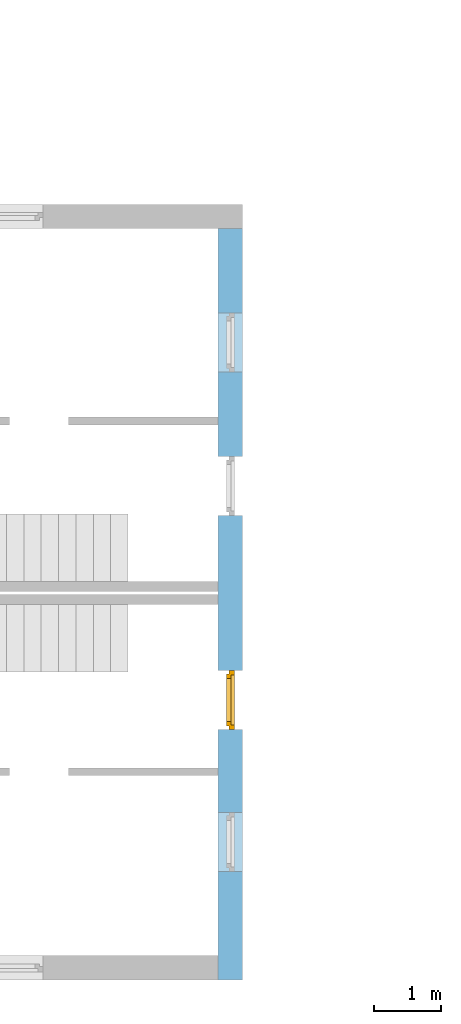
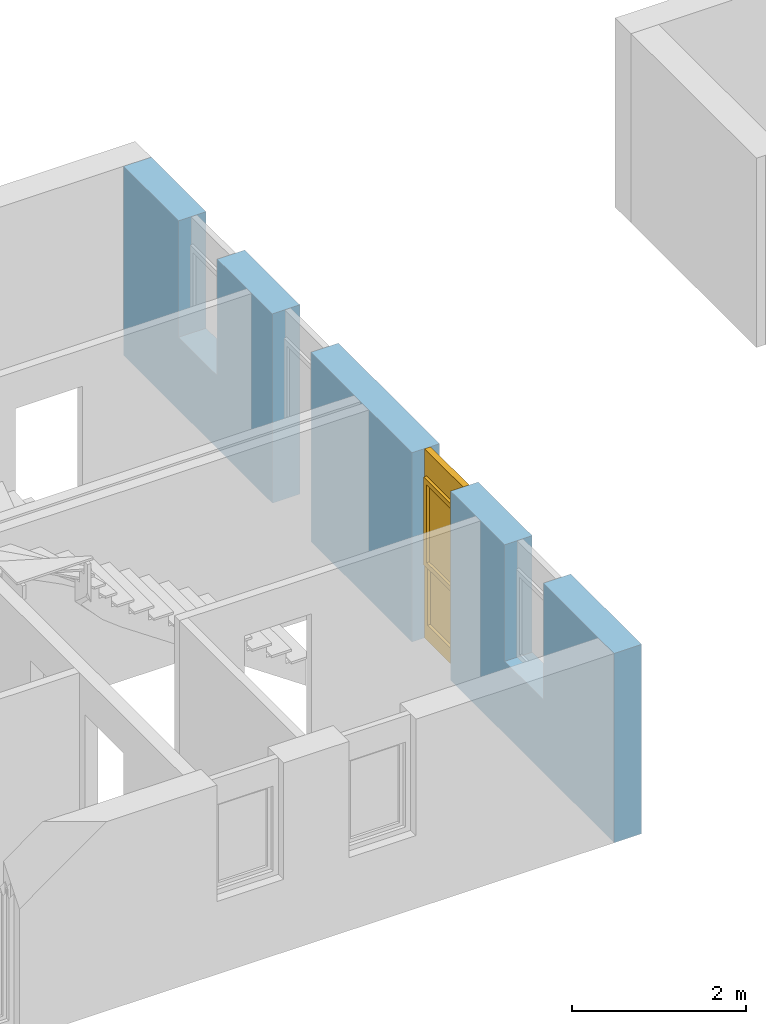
# One storey, part 10 of 42: 1 window, 4 openings, plus 1 element that does not belong to this part.
"""IFC2X3 building model written with IfcOpenShell, lengths in millimetres."""

from ifc_helpers import new_model, entity, si_unit, converted_unit, frame, frame_2d, origin, origin_with_axes, place, context, subcontext, project, spatial, rectangle, extrude, faceted_brep, material, layer, layer_set, layer_usage, type_object, element, fill, save


model = new_model("IFC2X3")

# Units and contexts
model_context = context("Model", 3, precision=1e-05, world=origin())
body_context = subcontext(model_context, "Body", "Model", "MODEL_VIEW")
ifc_project = project(units=[si_unit("LENGTHUNIT", "METRE", prefix="MILLI"), converted_unit("PLANEANGLEUNIT", "DEGREE", entity("IfcPlaneAngleMeasure", 0.0174532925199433), si_unit("PLANEANGLEUNIT", "RADIAN"), dimensions=[0, 0, 0, 0, 0, 0, 0]), si_unit("AREAUNIT", "SQUARE_METRE"), si_unit("VOLUMEUNIT", "CUBIC_METRE")], contexts=[model_context])

# Building, storey
building_placement = place(None, origin())
building = spatial("IfcBuilding", under=ifc_project, at=building_placement, Name="Gebäude", CompositionType="ELEMENT")
storey_placement = place(building_placement, frame((0.0, 0.0, 2730.0), z_axis=(0.0, 0.0, 1.0), x_axis=(1.0, 0.0, 0.0)))
storey = spatial("IfcBuildingStorey", under=building, at=storey_placement, Name="OG.- Grundriss", CompositionType="ELEMENT", Elevation=2730.0)

# Wall, openings, window
ifc_material_1 = material(Name="Poroton")
ifc_layer = layer(ifc_material_1, 365.0000000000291)
ifc_layer_set = layer_set([ifc_layer])
ifc_layer_usage = layer_usage(ifc_layer_set, "AXIS2", "POSITIVE", 0.0)
wall_placement = place(storey_placement, frame((142357.7928067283, 125274.8877321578, 0.0), z_axis=(0.0, 0.0, 1.0), x_axis=(0.0, 1.0, 0.0)))
wall = element("IfcWallStandardCase", 1, at=wall_placement, inside=storey, material=ifc_layer_usage, Name="<Unnamed Element>", context=body_context, shape_type="SweptSolid", body=[
    extrude(rectangle(XDim=11250.00000031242, YDim=365.0000000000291, at=frame_2d((5625.000000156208, 182.5000000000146), x_axis=(1.0, 0.0))), origin_with_axes(), (0.0, 0.0, 1.0), 2650.0),
])
opening_1_placement = place(wall_placement, frame((3750.0, 0.0, 0.0), z_axis=(0.0, 1.0, 0.0), x_axis=(0.0, 0.0, 1.0)))
opening_1 = element("IfcOpeningElement", 2, at=opening_1_placement, cuts=wall, Name="Fensteröffnung", ObjectType="Opening", context=body_context, shape_type="SweptSolid", body=[
    extrude(rectangle(XDim=2650.0, YDim=885.0, at=frame_2d((1325.0, 442.5), x_axis=(1.0, 0.0))), origin_with_axes(), (0.0, 0.0, 1.0), 365.0000000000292),
])
opening_2_placement = place(wall_placement, frame((6955.000000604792, 0.0, 0.0), z_axis=(0.0, 1.0, 0.0), x_axis=(0.0, 0.0, 1.0)))
element("IfcOpeningElement", 3, at=opening_2_placement, cuts=wall, Name="Fensteröffnung", ObjectType="Opening", context=body_context, shape_type="SweptSolid", body=[
    extrude(rectangle(XDim=2650.0, YDim=885.0, at=frame_2d((1325.0, 442.5), x_axis=(1.0, 0.0))), origin_with_axes(), (0.0, 0.0, 1.0), 365.0000000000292),
])
opening_3_placement = place(wall_placement, frame((9105.000000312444, 0.0, 1020.0), z_axis=(0.0, 1.0, 0.0), x_axis=(0.0, 0.0, 1.0)))
element("IfcOpeningElement", 4, at=opening_3_placement, cuts=wall, Name="Fensteröffnung", ObjectType="Opening", context=body_context, shape_type="SweptSolid", body=[
    extrude(rectangle(XDim=1630.0, YDim=885.0, at=frame_2d((815.0, 442.5), x_axis=(1.0, 0.0))), origin_with_axes(), (0.0, 0.0, 1.0), 365.0000000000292),
])
opening_4_placement = place(wall_placement, frame((1625.0, 0.0, 1020.0), z_axis=(0.0, 1.0, 0.0), x_axis=(0.0, 0.0, 1.0)))
element("IfcOpeningElement", 5, at=opening_4_placement, cuts=wall, Name="Fensteröffnung", ObjectType="Opening", context=body_context, shape_type="SweptSolid", body=[
    extrude(rectangle(XDim=1630.0, YDim=885.0, at=frame_2d((815.0, 442.5), x_axis=(1.0, 0.0))), origin_with_axes(), (0.0, 0.0, 1.0), 365.0000000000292),
])
ifc_material_2 = material()
window_style = type_object("IfcWindowStyle", Name="Fenster", ConstructionType="NOTDEFINED", OperationType="USERDEFINED", ParameterTakesPrecedence=False, Sizeable=False)
window_placement = place(opening_1_placement, frame((0.0, 0.0, 0.0), z_axis=(1.0, 0.0, 0.0), x_axis=(0.0, 1.0, 0.0)))
window = element("IfcWindow", 6, at=window_placement, inside=storey, type_object=window_style, material=ifc_material_2, Name="Fenster", OverallHeight=2650.0, OverallWidth=885.0, context=body_context, shape_type="Brep", body=[
    faceted_brep([(885.0, 200.0000000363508, 2650.0), (815.0, 200.0000000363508, 2650.0), (815.0, 200.0000000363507, -2.449293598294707e-15), (885.0, 200.0000000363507, -2.449293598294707e-15), (885.0, 120.0000000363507, 2.449293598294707e-15), (815.0, 120.0000000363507, 2.449293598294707e-15), (815.0, 120.0000000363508, 2650.0), (885.0, 120.0000000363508, 2650.0), (885.0, 200.0000000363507, -2.449293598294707e-15), (885.0, 120.0000000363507, 2.449293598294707e-15), (885.0, 120.0000000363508, 2650.0), (885.0, 200.0000000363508, 2650.0), (815.0, 200.0000000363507, -2.449293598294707e-15), (815.0, 120.0000000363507, 2.449293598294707e-15), (885.0, 120.0000000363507, 2.449293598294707e-15), (885.0, 200.0000000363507, -2.449293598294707e-15), (815.0, 200.0000000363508, 2650.0), (815.0, 120.0000000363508, 2650.0), (815.0, 120.0000000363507, 2.449293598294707e-15), (815.0, 200.0000000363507, -2.449293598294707e-15), (885.0, 200.0000000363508, 2650.0), (885.0, 120.0000000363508, 2650.0), (815.0, 120.0000000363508, 2650.0), (815.0, 200.0000000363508, 2650.0)], [[[0, 1, 2, 3]], [[4, 5, 6, 7]], [[8, 9, 10, 11]], [[12, 13, 14, 15]], [[16, 17, 18, 19]], [[20, 21, 22, 23]]], orient=[[False], [False], [False], [False], [False], [False]]),
    faceted_brep([(69.99999998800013, 200.0000000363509, 2650.0), (-1.199987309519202e-08, 200.0000000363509, 2650.0), (-1.199987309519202e-08, 200.0000000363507, -2.449293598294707e-15), (69.99999998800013, 200.0000000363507, -2.449293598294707e-15), (69.99999998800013, 120.0000000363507, 2.449293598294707e-15), (-1.199987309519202e-08, 120.0000000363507, 2.449293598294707e-15), (-1.199987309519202e-08, 120.0000000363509, 2650.0), (69.99999998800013, 120.0000000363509, 2650.0), (69.99999998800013, 200.0000000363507, -2.449293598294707e-15), (69.99999998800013, 120.0000000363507, 2.449293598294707e-15), (69.99999998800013, 120.0000000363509, 2650.0), (69.99999998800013, 200.0000000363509, 2650.0), (-1.199987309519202e-08, 200.0000000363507, -2.449293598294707e-15), (-1.199987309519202e-08, 120.0000000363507, 2.449293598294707e-15), (69.99999998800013, 120.0000000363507, 2.449293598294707e-15), (69.99999998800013, 200.0000000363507, -2.449293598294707e-15), (-1.199987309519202e-08, 200.0000000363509, 2650.0), (-1.199987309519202e-08, 120.0000000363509, 2650.0), (-1.199987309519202e-08, 120.0000000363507, 2.449293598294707e-15), (-1.199987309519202e-08, 200.0000000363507, -2.449293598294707e-15), (69.99999998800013, 200.0000000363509, 2650.0), (69.99999998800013, 120.0000000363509, 2650.0), (-1.199987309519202e-08, 120.0000000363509, 2650.0), (-1.199987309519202e-08, 200.0000000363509, 2650.0)], [[[0, 1, 2, 3]], [[4, 5, 6, 7]], [[8, 9, 10, 11]], [[12, 13, 14, 15]], [[16, 17, 18, 19]], [[20, 21, 22, 23]]], orient=[[False], [False], [False], [False], [False], [False]]),
    faceted_brep([(815.0, 200.0000000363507, 220.0), (69.99999998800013, 200.0000000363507, 220.0), (69.99999998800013, 200.0000000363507, -2.449293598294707e-15), (815.0, 200.0000000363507, -2.449293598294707e-15), (815.0, 120.0000000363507, 2.449293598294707e-15), (69.99999998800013, 120.0000000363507, 2.449293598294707e-15), (69.99999998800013, 120.0000000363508, 220.0), (815.0, 120.0000000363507, 220.0), (815.0, 200.0000000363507, -2.449293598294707e-15), (815.0, 120.0000000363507, 2.449293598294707e-15), (815.0, 120.0000000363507, 220.0), (815.0, 200.0000000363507, 220.0), (69.99999998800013, 200.0000000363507, -2.449293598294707e-15), (69.99999998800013, 120.0000000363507, 2.449293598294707e-15), (815.0, 120.0000000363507, 2.449293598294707e-15), (815.0, 200.0000000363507, -2.449293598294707e-15), (69.99999998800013, 200.0000000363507, 220.0), (69.99999998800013, 120.0000000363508, 220.0), (69.99999998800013, 120.0000000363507, 2.449293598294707e-15), (69.99999998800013, 200.0000000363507, -2.449293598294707e-15), (815.0, 200.0000000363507, 220.0), (815.0, 120.0000000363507, 220.0), (69.99999998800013, 120.0000000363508, 220.0), (69.99999998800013, 200.0000000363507, 220.0)], [[[0, 1, 2, 3]], [[4, 5, 6, 7]], [[8, 9, 10, 11]], [[12, 13, 14, 15]], [[16, 17, 18, 19]], [[20, 21, 22, 23]]], orient=[[False], [False], [False], [False], [False], [False]]),
    faceted_brep([(815.0, 200.0000000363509, 2650.0), (69.99999998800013, 200.0000000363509, 2650.0), (69.99999998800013, 200.0000000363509, 2280.0), (815.0, 200.0000000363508, 2280.0), (815.0, 120.0000000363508, 2280.0), (69.99999998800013, 120.0000000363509, 2280.0), (69.99999998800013, 120.0000000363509, 2650.0), (815.0, 120.0000000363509, 2650.0), (815.0, 200.0000000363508, 2280.0), (815.0, 120.0000000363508, 2280.0), (815.0, 120.0000000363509, 2650.0), (815.0, 200.0000000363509, 2650.0), (69.99999998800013, 200.0000000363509, 2280.0), (69.99999998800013, 120.0000000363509, 2280.0), (815.0, 120.0000000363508, 2280.0), (815.0, 200.0000000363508, 2280.0), (69.99999998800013, 200.0000000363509, 2650.0), (69.99999998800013, 120.0000000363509, 2650.0), (69.99999998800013, 120.0000000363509, 2280.0), (69.99999998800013, 200.0000000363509, 2280.0), (815.0, 200.0000000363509, 2650.0), (815.0, 120.0000000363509, 2650.0), (69.99999998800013, 120.0000000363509, 2650.0), (69.99999998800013, 200.0000000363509, 2650.0)], [[[0, 1, 2, 3]], [[4, 5, 6, 7]], [[8, 9, 10, 11]], [[12, 13, 14, 15]], [[16, 17, 18, 19]], [[20, 21, 22, 23]]], orient=[[False], [False], [False], [False], [False], [False]]),
    faceted_brep([(815.0, 200.0000000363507, 1090.0), (69.99999998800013, 200.0000000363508, 1090.0), (69.99999998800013, 200.0000000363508, 1020.0), (815.0, 200.0000000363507, 1020.0), (815.0, 120.0000000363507, 1020.0), (69.99999998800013, 120.0000000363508, 1020.0), (69.99999998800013, 120.0000000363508, 1090.0), (815.0, 120.0000000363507, 1090.0), (815.0, 200.0000000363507, 1020.0), (815.0, 120.0000000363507, 1020.0), (815.0, 120.0000000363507, 1090.0), (815.0, 200.0000000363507, 1090.0), (69.99999998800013, 200.0000000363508, 1020.0), (69.99999998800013, 120.0000000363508, 1020.0), (815.0, 120.0000000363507, 1020.0), (815.0, 200.0000000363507, 1020.0), (69.99999998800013, 200.0000000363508, 1090.0), (69.99999998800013, 120.0000000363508, 1090.0), (69.99999998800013, 120.0000000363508, 1020.0), (69.99999998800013, 200.0000000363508, 1020.0), (815.0, 200.0000000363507, 1090.0), (815.0, 120.0000000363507, 1090.0), (69.99999998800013, 120.0000000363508, 1090.0), (69.99999998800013, 200.0000000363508, 1090.0)], [[[0, 1, 2, 3]], [[4, 5, 6, 7]], [[8, 9, 10, 11]], [[12, 13, 14, 15]], [[16, 17, 18, 19]], [[20, 21, 22, 23]]], orient=[[False], [False], [False], [False], [False], [False]]),
    faceted_brep([(815.0, 160.0000000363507, 220.0), (815.0, 160.0000000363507, 1020.0), (69.99999998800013, 160.0000000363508, 1020.0), (69.99999998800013, 160.0000000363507, 220.0), (815.0, 159.0000000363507, 220.0), (69.99999998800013, 159.0000000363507, 220.0), (69.99999998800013, 159.0000000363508, 1020.0), (815.0, 159.0000000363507, 1020.0), (815.0, 160.0000000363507, 220.0), (815.0, 159.0000000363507, 220.0), (815.0, 159.0000000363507, 1020.0), (815.0, 160.0000000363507, 1020.0), (815.0, 160.0000000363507, 1020.0), (815.0, 159.0000000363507, 1020.0), (69.99999998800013, 159.0000000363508, 1020.0), (69.99999998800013, 160.0000000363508, 1020.0), (69.99999998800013, 160.0000000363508, 1020.0), (69.99999998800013, 159.0000000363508, 1020.0), (69.99999998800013, 159.0000000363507, 220.0), (69.99999998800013, 160.0000000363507, 220.0), (69.99999998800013, 160.0000000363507, 220.0), (69.99999998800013, 159.0000000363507, 220.0), (815.0, 159.0000000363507, 220.0), (815.0, 160.0000000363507, 220.0)], [[[0, 1, 2, 3]], [[4, 5, 6, 7]], [[8, 9, 10, 11]], [[12, 13, 14, 15]], [[16, 17, 18, 19]], [[20, 21, 22, 23]]], orient=[[False], [False], [False], [False], [False], [False]]),
    faceted_brep([(835.0, 240.0000000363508, 2300.0), (765.0, 240.0000000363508, 2300.0), (765.0, 240.0000000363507, 1070.0), (835.0, 240.0000000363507, 1070.0), (835.0, 170.0000000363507, 1070.0), (765.0, 170.0000000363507, 1070.0), (765.0, 170.0000000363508, 2300.0), (835.0, 170.0000000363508, 2300.0), (835.0, 240.0000000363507, 1070.0), (835.0, 170.0000000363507, 1070.0), (835.0, 170.0000000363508, 2300.0), (835.0, 240.0000000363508, 2300.0), (765.0, 240.0000000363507, 1070.0), (765.0, 170.0000000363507, 1070.0), (835.0, 170.0000000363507, 1070.0), (835.0, 240.0000000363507, 1070.0), (765.0, 240.0000000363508, 2300.0), (765.0, 170.0000000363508, 2300.0), (765.0, 170.0000000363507, 1070.0), (765.0, 240.0000000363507, 1070.0), (835.0, 240.0000000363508, 2300.0), (835.0, 170.0000000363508, 2300.0), (765.0, 170.0000000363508, 2300.0), (765.0, 240.0000000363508, 2300.0)], [[[0, 1, 2, 3]], [[4, 5, 6, 7]], [[8, 9, 10, 11]], [[12, 13, 14, 15]], [[16, 17, 18, 19]], [[20, 21, 22, 23]]], orient=[[False], [False], [False], [False], [False], [False]]),
    faceted_brep([(119.9999999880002, 240.0000000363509, 2300.0), (49.99999998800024, 240.0000000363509, 2300.0), (49.99999998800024, 240.0000000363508, 1070.0), (119.9999999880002, 240.0000000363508, 1070.0), (119.9999999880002, 170.0000000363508, 1070.0), (49.99999998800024, 170.0000000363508, 1070.0), (49.99999998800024, 170.0000000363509, 2300.0), (119.9999999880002, 170.0000000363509, 2300.0), (119.9999999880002, 240.0000000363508, 1070.0), (119.9999999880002, 170.0000000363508, 1070.0), (119.9999999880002, 170.0000000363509, 2300.0), (119.9999999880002, 240.0000000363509, 2300.0), (49.99999998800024, 240.0000000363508, 1070.0), (49.99999998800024, 170.0000000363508, 1070.0), (119.9999999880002, 170.0000000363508, 1070.0), (119.9999999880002, 240.0000000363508, 1070.0), (49.99999998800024, 240.0000000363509, 2300.0), (49.99999998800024, 170.0000000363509, 2300.0), (49.99999998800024, 170.0000000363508, 1070.0), (49.99999998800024, 240.0000000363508, 1070.0), (119.9999999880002, 240.0000000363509, 2300.0), (119.9999999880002, 170.0000000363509, 2300.0), (49.99999998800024, 170.0000000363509, 2300.0), (49.99999998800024, 240.0000000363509, 2300.0)], [[[0, 1, 2, 3]], [[4, 5, 6, 7]], [[8, 9, 10, 11]], [[12, 13, 14, 15]], [[16, 17, 18, 19]], [[20, 21, 22, 23]]], orient=[[False], [False], [False], [False], [False], [False]]),
    faceted_brep([(765.0, 240.0000000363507, 1140.0), (119.9999999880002, 240.0000000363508, 1140.0), (119.9999999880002, 240.0000000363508, 1070.0), (765.0, 240.0000000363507, 1070.0), (765.0, 170.0000000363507, 1070.0), (119.9999999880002, 170.0000000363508, 1070.0), (119.9999999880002, 170.0000000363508, 1140.0), (765.0, 170.0000000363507, 1140.0), (765.0, 240.0000000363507, 1070.0), (765.0, 170.0000000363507, 1070.0), (765.0, 170.0000000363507, 1140.0), (765.0, 240.0000000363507, 1140.0), (119.9999999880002, 240.0000000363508, 1070.0), (119.9999999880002, 170.0000000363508, 1070.0), (765.0, 170.0000000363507, 1070.0), (765.0, 240.0000000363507, 1070.0), (119.9999999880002, 240.0000000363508, 1140.0), (119.9999999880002, 170.0000000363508, 1140.0), (119.9999999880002, 170.0000000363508, 1070.0), (119.9999999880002, 240.0000000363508, 1070.0), (765.0, 240.0000000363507, 1140.0), (765.0, 170.0000000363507, 1140.0), (119.9999999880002, 170.0000000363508, 1140.0), (119.9999999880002, 240.0000000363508, 1140.0)], [[[0, 1, 2, 3]], [[4, 5, 6, 7]], [[8, 9, 10, 11]], [[12, 13, 14, 15]], [[16, 17, 18, 19]], [[20, 21, 22, 23]]], orient=[[False], [False], [False], [False], [False], [False]]),
    faceted_brep([(765.0, 240.0000000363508, 2300.0), (119.9999999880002, 240.0000000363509, 2300.0), (119.9999999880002, 240.0000000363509, 2230.0), (765.0, 240.0000000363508, 2230.0), (765.0, 170.0000000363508, 2230.0), (119.9999999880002, 170.0000000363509, 2230.0), (119.9999999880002, 170.0000000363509, 2300.0), (765.0, 170.0000000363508, 2300.0), (765.0, 240.0000000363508, 2230.0), (765.0, 170.0000000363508, 2230.0), (765.0, 170.0000000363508, 2300.0), (765.0, 240.0000000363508, 2300.0), (119.9999999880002, 240.0000000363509, 2230.0), (119.9999999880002, 170.0000000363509, 2230.0), (765.0, 170.0000000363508, 2230.0), (765.0, 240.0000000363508, 2230.0), (119.9999999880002, 240.0000000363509, 2300.0), (119.9999999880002, 170.0000000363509, 2300.0), (119.9999999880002, 170.0000000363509, 2230.0), (119.9999999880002, 240.0000000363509, 2230.0), (765.0, 240.0000000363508, 2300.0), (765.0, 170.0000000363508, 2300.0), (119.9999999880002, 170.0000000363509, 2300.0), (119.9999999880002, 240.0000000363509, 2300.0)], [[[0, 1, 2, 3]], [[4, 5, 6, 7]], [[8, 9, 10, 11]], [[12, 13, 14, 15]], [[16, 17, 18, 19]], [[20, 21, 22, 23]]], orient=[[False], [False], [False], [False], [False], [False]]),
    faceted_brep([(765.0, 205.0000000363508, 1140.0), (765.0, 205.0000000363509, 2230.0), (119.9999999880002, 205.0000000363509, 2230.0), (119.9999999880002, 205.0000000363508, 1140.0), (765.0, 204.0000000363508, 1140.0), (119.9999999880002, 204.0000000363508, 1140.0), (119.9999999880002, 204.0000000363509, 2230.0), (765.0, 204.0000000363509, 2230.0), (765.0, 205.0000000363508, 1140.0), (765.0, 204.0000000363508, 1140.0), (765.0, 204.0000000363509, 2230.0), (765.0, 205.0000000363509, 2230.0), (765.0, 205.0000000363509, 2230.0), (765.0, 204.0000000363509, 2230.0), (119.9999999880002, 204.0000000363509, 2230.0), (119.9999999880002, 205.0000000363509, 2230.0), (119.9999999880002, 205.0000000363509, 2230.0), (119.9999999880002, 204.0000000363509, 2230.0), (119.9999999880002, 204.0000000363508, 1140.0), (119.9999999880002, 205.0000000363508, 1140.0), (119.9999999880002, 205.0000000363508, 1140.0), (119.9999999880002, 204.0000000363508, 1140.0), (765.0, 204.0000000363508, 1140.0), (765.0, 205.0000000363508, 1140.0)], [[[0, 1, 2, 3]], [[4, 5, 6, 7]], [[8, 9, 10, 11]], [[12, 13, 14, 15]], [[16, 17, 18, 19]], [[20, 21, 22, 23]]], orient=[[False], [False], [False], [False], [False], [False]]),
])
fill(opening_1, window)

save(model, "model.ifc")
